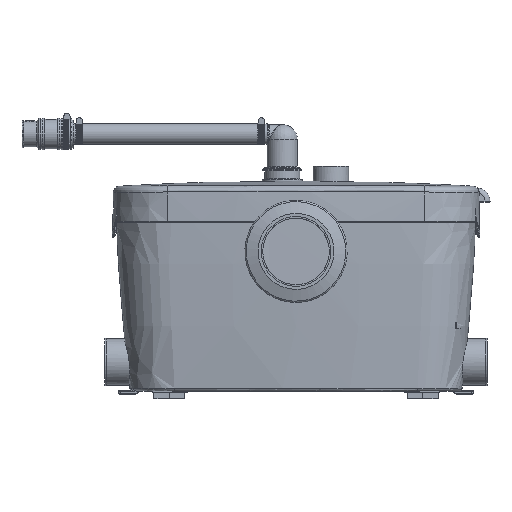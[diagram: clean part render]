
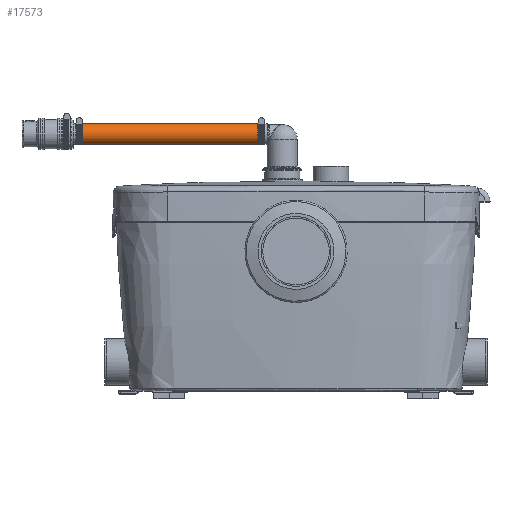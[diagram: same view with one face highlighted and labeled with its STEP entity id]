
A CAD part, top view. The second image highlights one B-rep face of the part: STEP entity #17573.
In plain terms, the highlighted cylindrical face has radius 13.25 mm (diameter 26.5 mm), a full revolution.
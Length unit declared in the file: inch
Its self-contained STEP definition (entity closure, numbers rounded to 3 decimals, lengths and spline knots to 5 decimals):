
#1564 = FACE_OUTER_BOUND ( 'NONE', #64056, .T. ) ;
#2444 = ORIENTED_EDGE ( 'NONE', *, *, #6648, .F. ) ;
#3320 = DIRECTION ( 'NONE',  ( 0., 0.775, 0.632 ) ) ;
#3698 = AXIS2_PLACEMENT_3D ( 'NONE', #70182, #33643, #76255 ) ;
#6648 = EDGE_CURVE ( 'NONE', #23703, #23703, #37239, .T. ) ;
#17573 = ADVANCED_FACE ( 'NONE', ( #1564, #48892 ), #57488, .T. ) ;
#23703 = VERTEX_POINT ( 'NONE', #71925 ) ;
#24990 = AXIS2_PLACEMENT_3D ( 'NONE', #52407, #46230, #3320 ) ;
#32202 = EDGE_CURVE ( 'NONE', #36205, #36205, #65651, .T. ) ;
#33643 = DIRECTION ( 'NONE',  ( 1., 0., 0. ) ) ;
#36205 = VERTEX_POINT ( 'NONE', #59978 ) ;
#37239 = CIRCLE ( 'NONE', #63331, 0.52165 ) ;
#38120 = DIRECTION ( 'NONE',  ( 0., 0., -1. ) ) ;
#38229 = DIRECTION ( 'NONE',  ( -1., 0., 0. ) ) ;
#38500 = CARTESIAN_POINT ( 'NONE',  ( -10.83553, 13.06063, -1.70884 ) ) ;
#46230 = DIRECTION ( 'NONE',  ( -1., 0., 0. ) ) ;
#48892 = FACE_OUTER_BOUND ( 'NONE', #78924, .T. ) ;
#52407 = CARTESIAN_POINT ( 'NONE',  ( -1.46545, 13.06063, -1.70884 ) ) ;
#57488 = CYLINDRICAL_SURFACE ( 'NONE', #24990, 0.52165 ) ;
#59978 = CARTESIAN_POINT ( 'NONE',  ( -1.93789, 13.06063, -1.18718 ) ) ;
#63331 = AXIS2_PLACEMENT_3D ( 'NONE', #38500, #38229, #38120 ) ;
#64056 = EDGE_LOOP ( 'NONE', ( #72364 ) ) ;
#65651 = CIRCLE ( 'NONE', #3698, 0.52165 ) ;
#70182 = CARTESIAN_POINT ( 'NONE',  ( -1.93789, 13.06063, -1.70884 ) ) ;
#71925 = CARTESIAN_POINT ( 'NONE',  ( -10.83553, 13.06063, -2.23049 ) ) ;
#72364 = ORIENTED_EDGE ( 'NONE', *, *, #32202, .F. ) ;
#76255 = DIRECTION ( 'NONE',  ( 0., 0., 1. ) ) ;
#78924 = EDGE_LOOP ( 'NONE', ( #2444 ) ) ;
